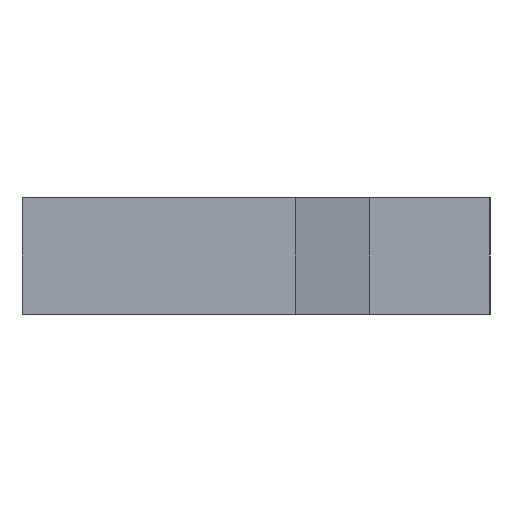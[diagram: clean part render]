
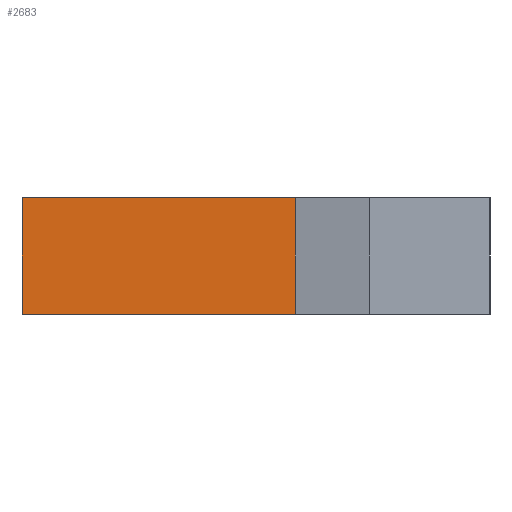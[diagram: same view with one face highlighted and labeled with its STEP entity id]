
A CAD part, left-side view. The second image highlights one B-rep face of the part: STEP entity #2683.
In plain terms, the highlighted planar face has unit normal (-1, 0, 0).
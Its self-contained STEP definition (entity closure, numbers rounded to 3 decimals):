
#504=EDGE_CURVE('',#1076,#1079,#1080,.T.);
#528=EDGE_CURVE('',#1109,#1076,#1112,.T.);
#618=EDGE_CURVE('',#1109,#1232,#1235,.T.);
#640=EDGE_CURVE('',#1232,#1079,#1258,.T.);
#1076=VERTEX_POINT('',#2296);
#1079=VERTEX_POINT('',#2301);
#1080=LINE('',#2302,#2303);
#1109=VERTEX_POINT('',#2353);
#1112=LINE('',#2358,#2359);
#1232=VERTEX_POINT('',#2548);
#1235=LINE('',#2553,#2554);
#1258=LINE('',#2597,#2598);
#2296=CARTESIAN_POINT('',(0.,80.0,20.0));
#2301=CARTESIAN_POINT('',(0.,33.326,20.0));
#2302=CARTESIAN_POINT('',(0.,0.,20.0));
#2303=VECTOR('',#3179,1.0);
#2353=CARTESIAN_POINT('',(0.,80.0,0.));
#2358=CARTESIAN_POINT('',(0.,80.0,0.));
#2359=VECTOR('',#3191,1.0);
#2548=CARTESIAN_POINT('',(0.,33.326,0.));
#2553=CARTESIAN_POINT('',(0.,80.0,0.));
#2554=VECTOR('',#3272,1.0);
#2597=CARTESIAN_POINT('',(0.,33.326,0.));
#2598=VECTOR('',#3285,1.0);
#2683=ADVANCED_FACE('',(#3365),#3366,.T.);
#3179=DIRECTION('',(0.,-1.0,0.));
#3191=DIRECTION('',(0.,0.,1.0));
#3272=DIRECTION('',(0.,-1.0,0.));
#3285=DIRECTION('',(0.,0.,1.0));
#3365=FACE_OUTER_BOUND('',#3474,.T.);
#3366=PLANE('',#3475);
#3474=EDGE_LOOP('',(#3726,#3727,#3728,#3729));
#3475=AXIS2_PLACEMENT_3D('',#3730,#3731,#3732);
#3726=ORIENTED_EDGE('',*,*,#618,.T.);
#3727=ORIENTED_EDGE('',*,*,#640,.T.);
#3728=ORIENTED_EDGE('',*,*,#504,.F.);
#3729=ORIENTED_EDGE('',*,*,#528,.F.);
#3730=CARTESIAN_POINT('',(0.,80.0,0.));
#3731=DIRECTION('',(-1.0,0.,0.));
#3732=DIRECTION('',(0.,0.,1.0));
